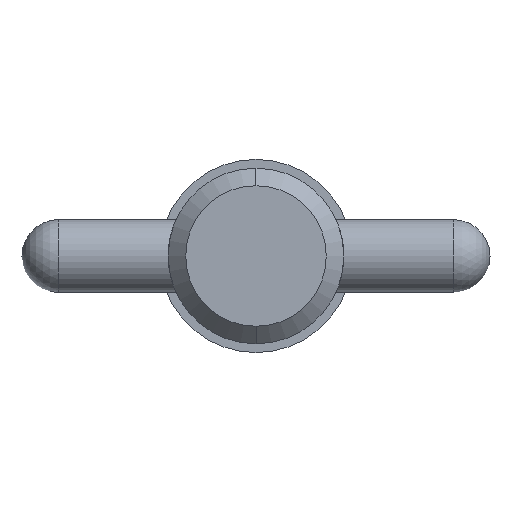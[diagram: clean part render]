
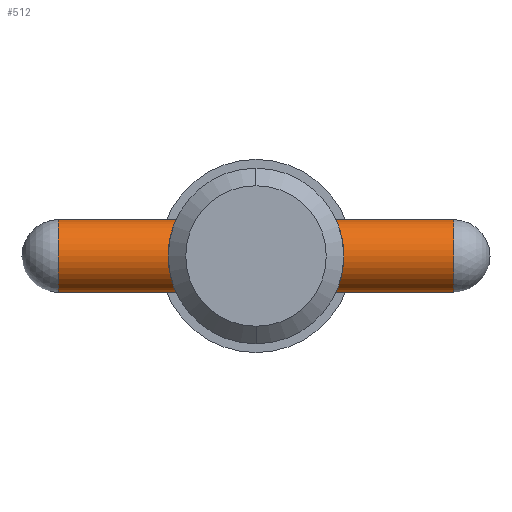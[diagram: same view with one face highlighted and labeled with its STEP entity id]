
A CAD part, left-side view. The second image highlights one B-rep face of the part: STEP entity #512.
In plain terms, the highlighted cylindrical face has radius 1.98 mm (diameter 3.96 mm), a partial arc.
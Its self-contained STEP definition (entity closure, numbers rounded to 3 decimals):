
#24 = VERTEX_POINT ( 'NONE', #967 ) ;
#83 = VERTEX_POINT ( 'NONE', #409 ) ;
#149 = DIRECTION ( 'NONE',  ( 0., 1., 0. ) ) ;
#180 = DIRECTION ( 'NONE',  ( 0., -1., 0. ) ) ;
#216 = VERTEX_POINT ( 'NONE', #769 ) ;
#242 = CARTESIAN_POINT ( 'NONE',  ( 0., 12.7, 1.98 ) ) ;
#247 = FACE_OUTER_BOUND ( 'NONE', #660, .T. ) ;
#264 = ORIENTED_EDGE ( 'NONE', *, *, #1008, .F. ) ;
#267 = AXIS2_PLACEMENT_3D ( 'NONE', #585, #800, #339 ) ;
#339 = DIRECTION ( 'NONE',  ( 0., 0., -1. ) ) ;
#372 = CARTESIAN_POINT ( 'NONE',  ( 0., -10.72, 0. ) ) ;
#400 = LINE ( 'NONE', #958, #707 ) ;
#409 = CARTESIAN_POINT ( 'NONE',  ( 0., -10.72, 1.98 ) ) ;
#434 = CARTESIAN_POINT ( 'NONE',  ( 0., 10.72, 1.98 ) ) ;
#486 = CIRCLE ( 'NONE', #788, 1.98 ) ;
#494 = EDGE_CURVE ( 'NONE', #24, #216, #400, .T. ) ;
#495 = ORIENTED_EDGE ( 'NONE', *, *, #494, .T. ) ;
#500 = EDGE_CURVE ( 'NONE', #809, #24, #777, .T. ) ;
#512 = ADVANCED_FACE ( 'NONE', ( #247 ), #574, .T. ) ;
#574 = CYLINDRICAL_SURFACE ( 'NONE', #853, 1.98 ) ;
#585 = CARTESIAN_POINT ( 'NONE',  ( 0., 10.72, 0. ) ) ;
#660 = EDGE_LOOP ( 'NONE', ( #264, #743, #495, #849 ) ) ;
#670 = DIRECTION ( 'NONE',  ( 0., 0., -1. ) ) ;
#707 = VECTOR ( 'NONE', #180, 1000. ) ;
#735 = DIRECTION ( 'NONE',  ( 0., -1., 0. ) ) ;
#743 = ORIENTED_EDGE ( 'NONE', *, *, #500, .T. ) ;
#769 = CARTESIAN_POINT ( 'NONE',  ( 0., -10.72, -1.98 ) ) ;
#777 = CIRCLE ( 'NONE', #267, 1.98 ) ;
#788 = AXIS2_PLACEMENT_3D ( 'NONE', #372, #149, #670 ) ;
#790 = DIRECTION ( 'NONE',  ( 0., -1., 0. ) ) ;
#800 = DIRECTION ( 'NONE',  ( 0., -1., 0. ) ) ;
#809 = VERTEX_POINT ( 'NONE', #434 ) ;
#844 = EDGE_CURVE ( 'NONE', #216, #83, #486, .T. ) ;
#849 = ORIENTED_EDGE ( 'NONE', *, *, #844, .T. ) ;
#853 = AXIS2_PLACEMENT_3D ( 'NONE', #976, #735, #982 ) ;
#942 = VECTOR ( 'NONE', #790, 1000. ) ;
#958 = CARTESIAN_POINT ( 'NONE',  ( 0., 12.7, -1.98 ) ) ;
#967 = CARTESIAN_POINT ( 'NONE',  ( 0., 10.72, -1.98 ) ) ;
#976 = CARTESIAN_POINT ( 'NONE',  ( 0., 12.7, 0. ) ) ;
#982 = DIRECTION ( 'NONE',  ( 0., 0., -1. ) ) ;
#1008 = EDGE_CURVE ( 'NONE', #809, #83, #1033, .T. ) ;
#1033 = LINE ( 'NONE', #242, #942 ) ;
